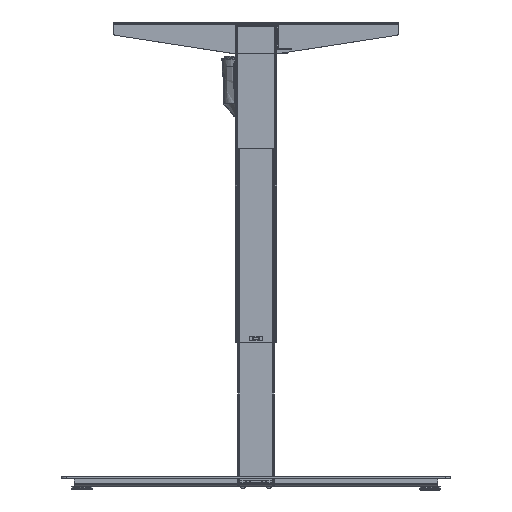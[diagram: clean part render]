
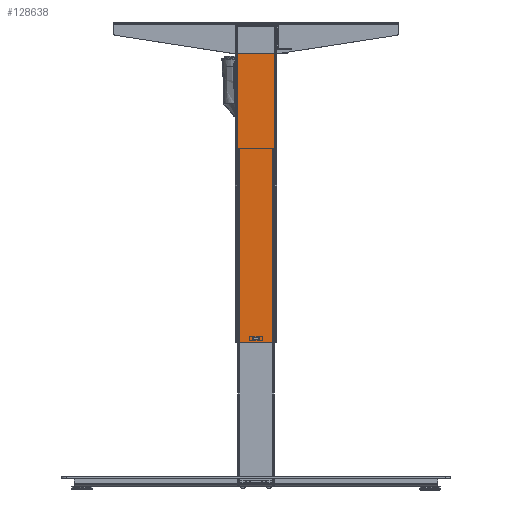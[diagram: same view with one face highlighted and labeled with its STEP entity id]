
A CAD part, left-side view. The second image highlights one B-rep face of the part: STEP entity #128638.
In plain terms, the highlighted planar face has unit normal (-1, 0, 0).
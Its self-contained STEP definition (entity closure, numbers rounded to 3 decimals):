
#3466 = LINE ( 'NONE', #82603, #60432 ) ;
#4968 = CARTESIAN_POINT ( 'NONE',  ( -29.5, 36.5, 0. ) ) ;
#9930 = CARTESIAN_POINT ( 'NONE',  ( -29.5, 6., 6. ) ) ;
#15789 = VECTOR ( 'NONE', #88053, 1000. ) ;
#17895 = CARTESIAN_POINT ( 'NONE',  ( -29.5, -6., 10. ) ) ;
#22387 = ORIENTED_EDGE ( 'NONE', *, *, #102093, .T. ) ;
#23242 = VERTEX_POINT ( 'NONE', #124001 ) ;
#24919 = ORIENTED_EDGE ( 'NONE', *, *, #108445, .T. ) ;
#26480 = CARTESIAN_POINT ( 'NONE',  ( -29.5, 6., 6. ) ) ;
#31086 = LINE ( 'NONE', #142074, #15789 ) ;
#37596 = VECTOR ( 'NONE', #41385, 1000. ) ;
#38830 = DIRECTION ( 'NONE',  ( 0., -1., 0. ) ) ;
#40121 = EDGE_LOOP ( 'NONE', ( #145337, #142609, #24919, #102040 ) ) ;
#41385 = DIRECTION ( 'NONE',  ( 0., -1., 0. ) ) ;
#45968 = CARTESIAN_POINT ( 'NONE',  ( -29.5, 36.5, 0. ) ) ;
#47010 = LINE ( 'NONE', #69925, #61155 ) ;
#47223 = EDGE_CURVE ( 'NONE', #23242, #118347, #3466, .T. ) ;
#51648 = EDGE_CURVE ( 'NONE', #127341, #67670, #31086, .T. ) ;
#53094 = FACE_BOUND ( 'NONE', #40121, .T. ) ;
#55280 = PLANE ( 'NONE',  #103713 ) ;
#59413 = EDGE_LOOP ( 'NONE', ( #126140, #125728, #88286, #22387 ) ) ;
#60432 = VECTOR ( 'NONE', #106255, 1000. ) ;
#61155 = VECTOR ( 'NONE', #89159, 1000. ) ;
#63053 = DIRECTION ( 'NONE',  ( 0., 0., -1. ) ) ;
#66429 = EDGE_CURVE ( 'NONE', #126279, #107959, #118709, .T. ) ;
#67670 = VERTEX_POINT ( 'NONE', #4968 ) ;
#69925 = CARTESIAN_POINT ( 'NONE',  ( -29.5, 6., 10. ) ) ;
#76127 = CARTESIAN_POINT ( 'NONE',  ( -29.5, 39.5, 609. ) ) ;
#78492 = LINE ( 'NONE', #45968, #82365 ) ;
#79450 = LINE ( 'NONE', #9930, #89123 ) ;
#82365 = VECTOR ( 'NONE', #136902, 1000. ) ;
#82603 = CARTESIAN_POINT ( 'NONE',  ( -29.5, -36.5, 614. ) ) ;
#83547 = CARTESIAN_POINT ( 'NONE',  ( -29.5, 6., 10. ) ) ;
#83678 = CARTESIAN_POINT ( 'NONE',  ( -29.5, -6., 6. ) ) ;
#84279 = VECTOR ( 'NONE', #38830, 1000. ) ;
#87794 = CARTESIAN_POINT ( 'NONE',  ( -29.5, 36.5, 614. ) ) ;
#88053 = DIRECTION ( 'NONE',  ( 0., 0., -1. ) ) ;
#88286 = ORIENTED_EDGE ( 'NONE', *, *, #51648, .T. ) ;
#89063 = VERTEX_POINT ( 'NONE', #83678 ) ;
#89123 = VECTOR ( 'NONE', #102387, 1000. ) ;
#89159 = DIRECTION ( 'NONE',  ( 0., 0., 1. ) ) ;
#89246 = DIRECTION ( 'NONE',  ( 1., 0., 0. ) ) ;
#98028 = EDGE_CURVE ( 'NONE', #89063, #128532, #79450, .T. ) ;
#98921 = FACE_OUTER_BOUND ( 'NONE', #59413, .T. ) ;
#102040 = ORIENTED_EDGE ( 'NONE', *, *, #98028, .T. ) ;
#102093 = EDGE_CURVE ( 'NONE', #67670, #118347, #78492, .T. ) ;
#102387 = DIRECTION ( 'NONE',  ( 0., 1., 0. ) ) ;
#102405 = EDGE_CURVE ( 'NONE', #127341, #23242, #130182, .T. ) ;
#103713 = AXIS2_PLACEMENT_3D ( 'NONE', #87794, #89246, #144728 ) ;
#106255 = DIRECTION ( 'NONE',  ( 0., 0., -1. ) ) ;
#107959 = VERTEX_POINT ( 'NONE', #136424 ) ;
#108445 = EDGE_CURVE ( 'NONE', #107959, #89063, #131078, .T. ) ;
#110230 = CARTESIAN_POINT ( 'NONE',  ( -29.5, -36.5, 0. ) ) ;
#114706 = CARTESIAN_POINT ( 'NONE',  ( -29.5, 36.5, 609. ) ) ;
#118347 = VERTEX_POINT ( 'NONE', #110230 ) ;
#118709 = LINE ( 'NONE', #129809, #84279 ) ;
#120640 = VECTOR ( 'NONE', #63053, 1000. ) ;
#124001 = CARTESIAN_POINT ( 'NONE',  ( -29.5, -36.5, 609. ) ) ;
#125674 = EDGE_CURVE ( 'NONE', #128532, #126279, #47010, .T. ) ;
#125728 = ORIENTED_EDGE ( 'NONE', *, *, #102405, .F. ) ;
#126140 = ORIENTED_EDGE ( 'NONE', *, *, #47223, .F. ) ;
#126279 = VERTEX_POINT ( 'NONE', #83547 ) ;
#127341 = VERTEX_POINT ( 'NONE', #114706 ) ;
#128532 = VERTEX_POINT ( 'NONE', #26480 ) ;
#128638 = ADVANCED_FACE ( 'NONE', ( #53094, #98921 ), #55280, .F. ) ;
#129809 = CARTESIAN_POINT ( 'NONE',  ( -29.5, 6., 10. ) ) ;
#130182 = LINE ( 'NONE', #76127, #37596 ) ;
#131078 = LINE ( 'NONE', #17895, #120640 ) ;
#136424 = CARTESIAN_POINT ( 'NONE',  ( -29.5, -6., 10. ) ) ;
#136902 = DIRECTION ( 'NONE',  ( 0., -1., 0. ) ) ;
#142074 = CARTESIAN_POINT ( 'NONE',  ( -29.5, 36.5, 614. ) ) ;
#142609 = ORIENTED_EDGE ( 'NONE', *, *, #66429, .T. ) ;
#144728 = DIRECTION ( 'NONE',  ( 0., 1., 0. ) ) ;
#145337 = ORIENTED_EDGE ( 'NONE', *, *, #125674, .T. ) ;
